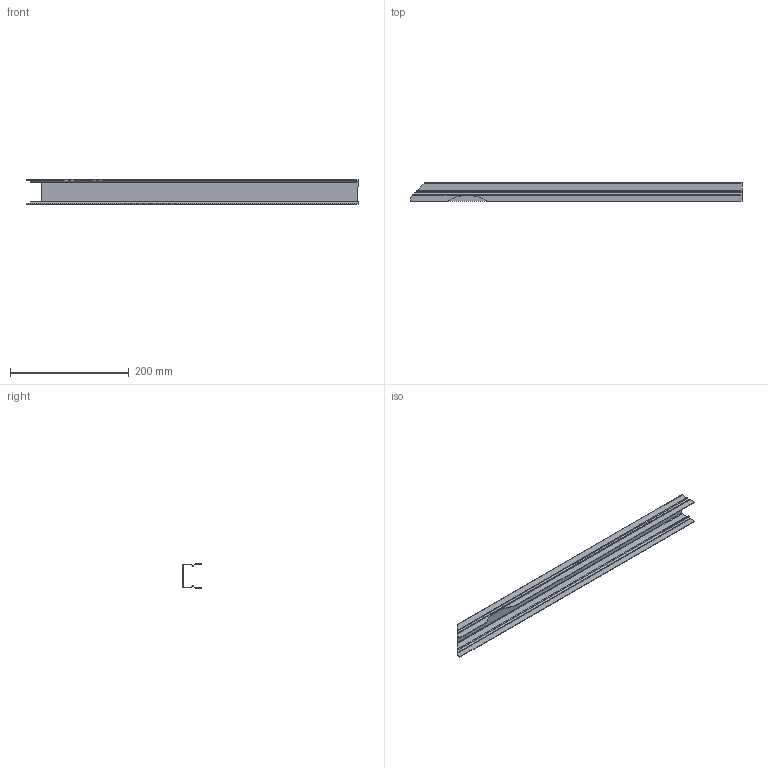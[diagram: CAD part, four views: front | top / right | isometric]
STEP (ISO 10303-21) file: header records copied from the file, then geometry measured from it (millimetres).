
FILE_DESCRIPTION (( 'STEP AP203' ), '1' );
FILE_NAME ('70-0270-00 REV 2, CABLE COVER, 18in FLEX, BLACK.STEP', '2017-01-25T17:39:57', ( '' ), ( '' ), 'SwSTEP 2.0', 'SolidWorks 2012', '' );
FILE_SCHEMA (( 'CONFIG_CONTROL_DESIGN' ));
Length unit declared in the file: inch
Products named in the file (1): 70-0270-00 REV 2, CABLE COVER, 18in FLEX, BLACK
Bounding box: 558.8 x 31.77 x 40.47 mm (x, y, z)
Volume: 51719.7 mm3; surface area: 114358.9 mm2
Topology: 1 solids, 1 shells, 80 faces, 166 edges, 88 vertices
Faces by surface type: plane 51, cylinder 18, bspline 11
Entity records: 2319 total; most frequent: CARTESIAN_POINT 678, ORIENTED_EDGE 332, DIRECTION 304, EDGE_CURVE 166, LINE 124, VECTOR 124, AXIS2_PLACEMENT_3D 90, VERTEX_POINT 88
